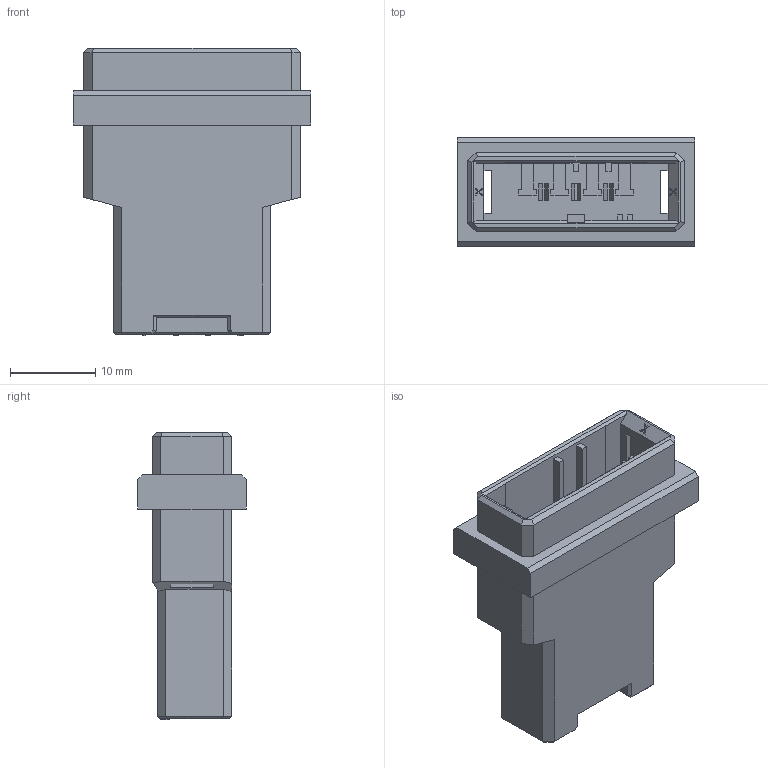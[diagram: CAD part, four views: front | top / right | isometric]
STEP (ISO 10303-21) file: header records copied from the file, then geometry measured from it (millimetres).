
FILE_DESCRIPTION (( 'STEP AP203' ), '1' );
FILE_NAME ('DK-3100S-04F.STEP', '2023-12-26T07:37:02', ( '' ), ( '' ), 'SwSTEP 2.0', 'SolidWorks 2018', '' );
FILE_SCHEMA (( 'CONFIG_CONTROL_DESIGN' ));
Length unit declared in the file: millimetre
Products named in the file (1): DK-3100S-04F
Bounding box: 27.81 x 12.7 x 33.7 mm (x, y, z)
Volume: 4480.6 mm3; surface area: 4035.9 mm2
Topology: 1 solids, 1 shells, 618 faces, 1695 edges, 1114 vertices
Faces by surface type: plane 468, bspline 146, cylinder 4
Entity records: 23520 total; most frequent: CARTESIAN_POINT 8802, ORIENTED_EDGE 3390, DIRECTION 2337, EDGE_CURVE 1695, LINE 1375, VECTOR 1375, VERTEX_POINT 1114, EDGE_LOOP 657
